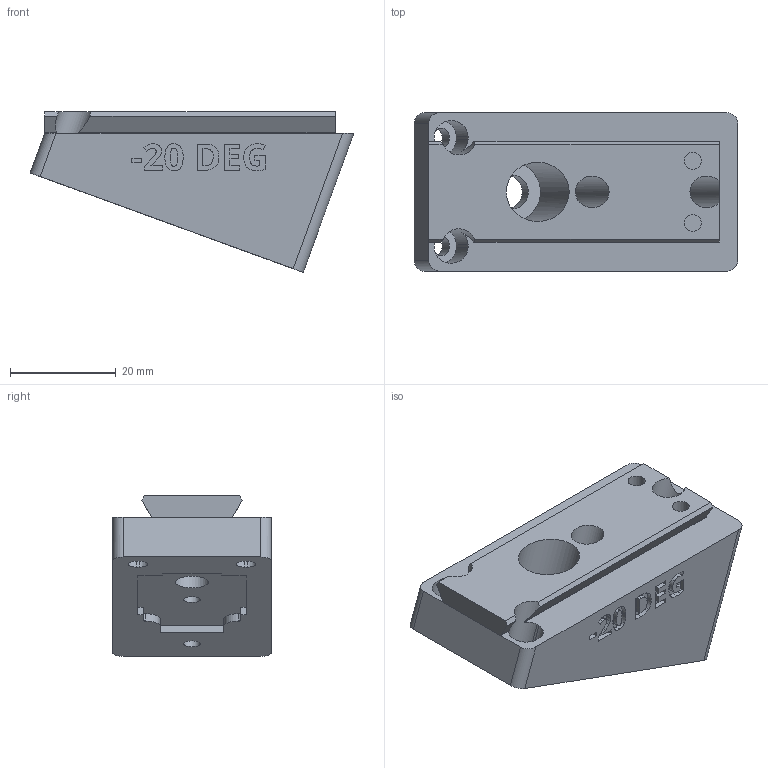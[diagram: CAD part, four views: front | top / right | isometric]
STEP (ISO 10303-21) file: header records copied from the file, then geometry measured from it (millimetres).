
FILE_DESCRIPTION(/* description */ ('STEP AP242 Edition 2','CAx-IF Rec.Pracs.---Representation and Presentation of Product Manufacturing Information (PMI)---4.0---2014-10-13','CAx-IF Rec.Pracs.---3D Tessellated Geometry---0.4---2014-09-14','2;1','CAx-IF Rec.Pracs.---User Defined Attributes---1.5---2016-08-15'),/* implementation_level */ '2;1');
FILE_NAME(/* name */ 'Camera Wedges - CAMERA MOUNTING WEDGE, NEG, -20 DEG',/* time_stamp */ '2026-08-11T00:06:49Z',/* author */ (''),/* organization */ (''),/* preprocessor_version */ 'ST-DEVELOPER v20',/* originating_system */ 'ONSHAPE BY PTC INC, 1.219',/* authorisation */ ' ');
FILE_SCHEMA (('AP242_MANAGED_MODEL_BASED_3D_ENGINEERING_MIM_LF { 1 0 10303 442 3 1 4 }'));
Length unit declared in the file: metre
Products named in the file (1): CAMERA MOUNTING WEDGE, NEG, -20 DEG
Bounding box: 61.26 x 30 x 30.41 mm (x, y, z)
Volume: 29212.3 mm3; surface area: 9281 mm2
Topology: 1 solids, 1 shells, 267 faces, 730 edges, 486 vertices
Faces by surface type: plane 139, bspline 76, cylinder 52
Full cylindrical faces by diameter (mm): 3.2 x4, 6 x2, 6.4 x1, 11.2 x1
Entity records: 8682 total; most frequent: CARTESIAN_POINT 2310, ORIENTED_EDGE 1442, DIRECTION 1070, EDGE_CURVE 721, VERTEX_POINT 485, LINE 452, VECTOR 452, AXIS2_PLACEMENT_3D 309
